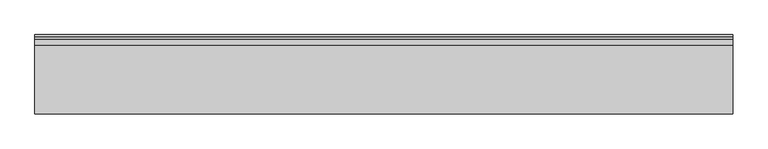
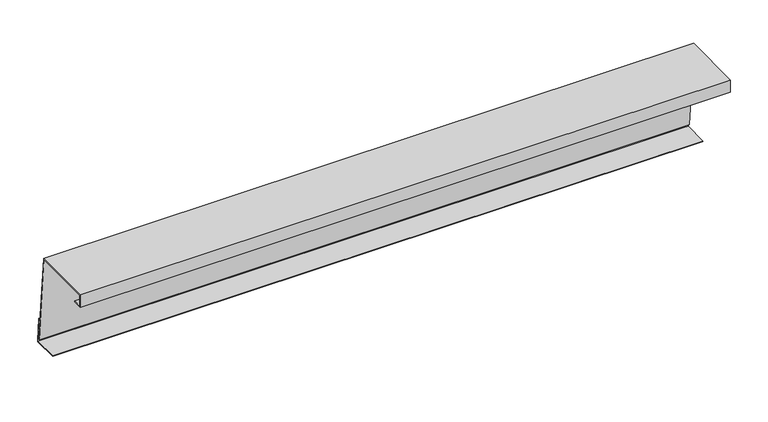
"""IFC4 building model written with IfcOpenShell, lengths in millimetres: proxy geometry, Alubel Alu-skin Lowerl Frame Type1 : Alubel Alu-skin Lowerl Frame Type1."""

from ifc_helpers import new_model, si_unit, frame, origin, place, context, project, spatial, polyline, outline, extrude, source, transform, mapped, element, save


def generic_models_1ceb38be(model_context):
    return source(origin(), model_context, "Body", "SweptSolid", [
        extrude(outline(polyline([(-3.4862297, 40.0), (0.0, 1.0), (0.0, 0.0), (-40.0, 0.0), (-40.0, 1.0), (-1.0039874, 1.0), (-4.3932227, 38.9149361), (-5.3892511, 38.8259006), (-3.7143533, 20.0890355), (-4.7103817, 20.0), (-6.4743151, 39.7328935), (-3.4862297, 40.0)])), frame((-500.0, 0.0, 0.0), z_axis=(1.0, 0.0, 0.0), x_axis=(0.0, 1.0, 0.0)), (0.0, 0.0, 1.0), 1000.0),
        extrude(outline(polyline([(-15.8841949, 145.0), (-3.4589147, 6.0), (-4.4549431, 5.9109645), (-16.7987918, 144.0), (-112.8830519, 144.0), (-112.8830519, 126.0), (-98.8830519, 126.0), (-98.8830519, 125.0), (-113.8830519, 125.0), (-113.8830519, 145.0), (-15.8841949, 145.0)])), frame((-500.0, 0.0, 0.0), z_axis=(1.0, 0.0, 0.0), x_axis=(0.0, 1.0, 0.0)), (0.0, 0.0, 1.0), 1000.0),
    ])


if __name__ == "__main__":
    model = new_model("IFC4")
    model_context = context("Model", 3, world=origin())
    ifc_project = project(units=[si_unit("LENGTHUNIT", "METRE", prefix="MILLI")], contexts=[model_context])
    site = spatial("IfcSite", under=ifc_project)
    building = spatial("IfcBuilding", under=site)
    placement = place(None, origin())
    generic_models_shape = generic_models_1ceb38be(model_context)
    element("IfcBuildingElementProxy", 1, Name="Alubel Alu-skin Lowerl Frame Type1 : Alubel Alu-skin Lowerl Frame Type1", ObjectType="Alubel Alu-skin Lowerl Frame Type1 : Alubel Alu-skin Lowerl Frame Type1", at=placement, inside=building, context=model_context, shape_type="MappedRepresentation", body=[
        mapped(generic_models_shape, transform((0.0, 0.0, 0.0), x_axis=(1.0, 0.0, 0.0), y_axis=(0.0, 1.0, 0.0), z_axis=(0.0, 0.0, 1.0))),
    ])
    save(model, "model.ifc")
